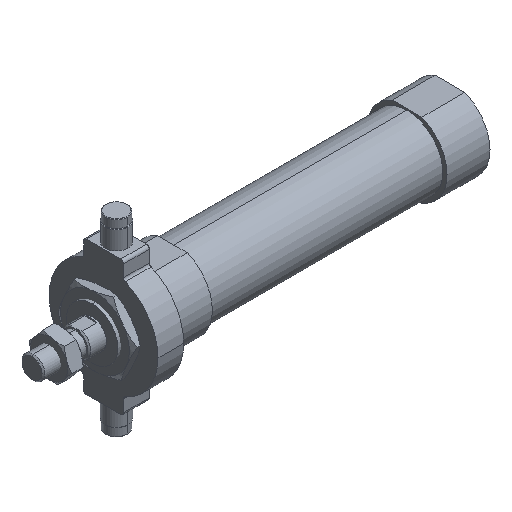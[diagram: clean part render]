
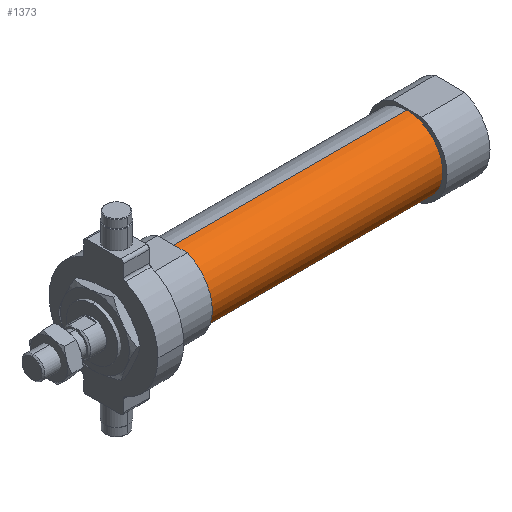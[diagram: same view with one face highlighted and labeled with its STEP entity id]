
A CAD part, isometric view. The second image highlights one B-rep face of the part: STEP entity #1373.
In plain terms, the highlighted cylindrical face has radius 12.5 mm (diameter 25 mm), a partial arc.
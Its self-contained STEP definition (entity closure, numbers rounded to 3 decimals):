
#106 = VERTEX_POINT ( 'NONE', #1955 ) ;
#241 = CARTESIAN_POINT ( 'NONE',  ( 49., 0., 0. ) ) ;
#497 = CYLINDRICAL_SURFACE ( 'NONE', #793, 12.5 ) ;
#548 = DIRECTION ( 'NONE',  ( 0., 0., 1. ) ) ;
#595 = VECTOR ( 'NONE', #665, 1000. ) ;
#657 = CARTESIAN_POINT ( 'NONE',  ( 49., 0., -12.5 ) ) ;
#665 = DIRECTION ( 'NONE',  ( -1., 0., 0. ) ) ;
#793 = AXIS2_PLACEMENT_3D ( 'NONE', #1199, #2503, #548 ) ;
#870 = DIRECTION ( 'NONE',  ( -1., 0., 0. ) ) ;
#1199 = CARTESIAN_POINT ( 'NONE',  ( -6.469, 0., 0. ) ) ;
#1264 = DIRECTION ( 'NONE',  ( 0., 0., 1. ) ) ;
#1266 = VECTOR ( 'NONE', #870, 1000. ) ;
#1298 = CARTESIAN_POINT ( 'NONE',  ( -6.469, 0., 12.5 ) ) ;
#1355 = VERTEX_POINT ( 'NONE', #3749 ) ;
#1357 = CIRCLE ( 'NONE', #3600, 12.5 ) ;
#1372 = EDGE_CURVE ( 'NONE', #1355, #3069, #2028, .T. ) ;
#1373 = ADVANCED_FACE ( 'NONE', ( #2987 ), #497, .T. ) ;
#1418 = LINE ( 'NONE', #1298, #595 ) ;
#1548 = ORIENTED_EDGE ( 'NONE', *, *, #3395, .F. ) ;
#1631 = EDGE_CURVE ( 'NONE', #2528, #106, #1418, .T. ) ;
#1955 = CARTESIAN_POINT ( 'NONE',  ( 49., 0., 12.5 ) ) ;
#2028 = LINE ( 'NONE', #2813, #1266 ) ;
#2101 = CARTESIAN_POINT ( 'NONE',  ( 131., 0., 12.5 ) ) ;
#2134 = EDGE_LOOP ( 'NONE', ( #2202, #3522, #3150, #1548 ) ) ;
#2199 = DIRECTION ( 'NONE',  ( 0., 0., 1. ) ) ;
#2202 = ORIENTED_EDGE ( 'NONE', *, *, #1372, .F. ) ;
#2278 = CIRCLE ( 'NONE', #2618, 12.5 ) ;
#2494 = DIRECTION ( 'NONE',  ( -1., 0., 0. ) ) ;
#2503 = DIRECTION ( 'NONE',  ( -1., 0., 0. ) ) ;
#2528 = VERTEX_POINT ( 'NONE', #2101 ) ;
#2618 = AXIS2_PLACEMENT_3D ( 'NONE', #241, #2494, #2199 ) ;
#2813 = CARTESIAN_POINT ( 'NONE',  ( -6.469, 0., -12.5 ) ) ;
#2987 = FACE_OUTER_BOUND ( 'NONE', #2134, .T. ) ;
#3069 = VERTEX_POINT ( 'NONE', #657 ) ;
#3150 = ORIENTED_EDGE ( 'NONE', *, *, #1631, .T. ) ;
#3395 = EDGE_CURVE ( 'NONE', #3069, #106, #2278, .T. ) ;
#3522 = ORIENTED_EDGE ( 'NONE', *, *, #3745, .T. ) ;
#3528 = CARTESIAN_POINT ( 'NONE',  ( 131., 0., 0. ) ) ;
#3600 = AXIS2_PLACEMENT_3D ( 'NONE', #3528, #3846, #1264 ) ;
#3745 = EDGE_CURVE ( 'NONE', #1355, #2528, #1357, .T. ) ;
#3749 = CARTESIAN_POINT ( 'NONE',  ( 131., 0., -12.5 ) ) ;
#3846 = DIRECTION ( 'NONE',  ( -1., 0., 0. ) ) ;
